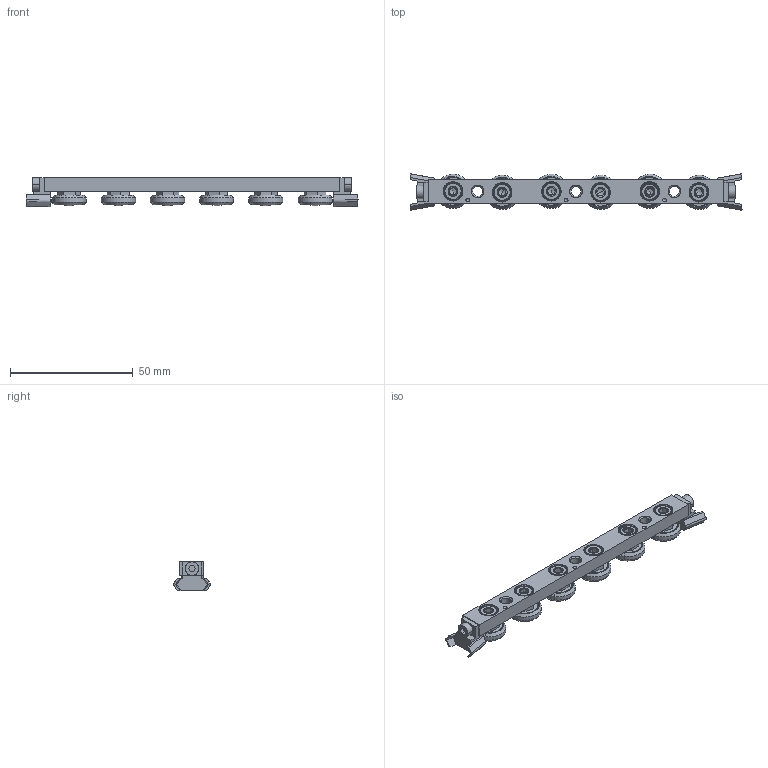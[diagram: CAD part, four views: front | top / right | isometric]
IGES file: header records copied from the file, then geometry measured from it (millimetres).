
Start section: SolidWorks IGES file using analytic representation for surfaces
Global section: file name: E:\J-00018 - L1918-L1963 LCompact Rail\L1918_v2\L1918.CSW18_v2\L1918.CSW18_IGES\L1918.CSW18-120-2ZTB.igs; native system: SolidWorks 2017; preprocessor: SolidWorks 2017; author: liam_; date: 190629.230743; units: millimetre
Bounding box: 135 x 14.8 x 11.95 mm (x, y, z)
Surface area: 10833.1 mm2 (no closed solid volume)
Topology: 0 solids, 0 shells, 624 faces, 8024 edges, 7984 vertices
Faces by surface type: bspline 346, revolution 278
